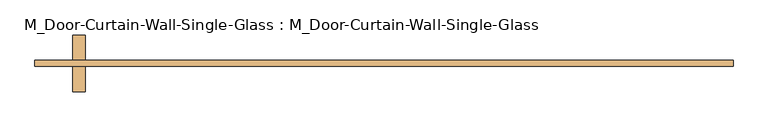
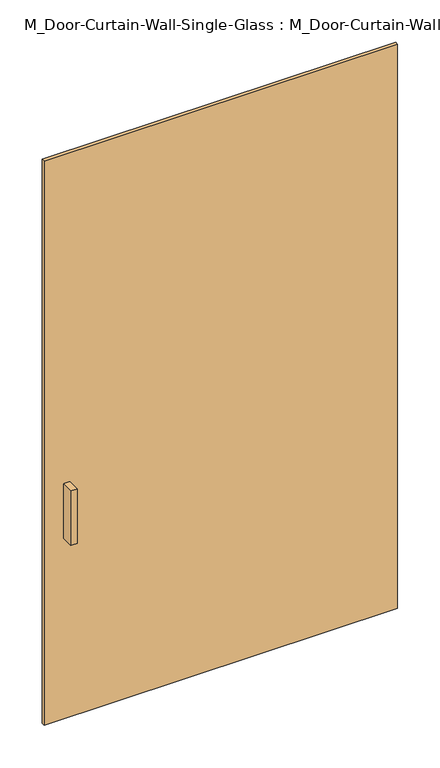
"""IFC4 building model written with IfcOpenShell, lengths in millimetres: door geometry, M_Door-Curtain-Wall-Single-Glass : M_Door-Curtain-Wall-Single-Glass."""

import ifcopenshell
import ifcopenshell.guid

model = None  # the IFC model being written
_history = None  # IfcOwnerHistory: only IFC2X3 demands one
_inside = {}  # id of a spatial element -> (the spatial element, [elements in it])
_under = {}  # id of a project, library or spatial element -> (it, [spatial elements below it])
_declared = {}  # id of a project -> (the project, [libraries it declares])
_typed = {}  # id of a type object -> (the type object, [elements of that type])
_made_of = {}  # id of a material, layer set ... -> (it, [elements and type objects made of it])


def new_model(schema):
    """Start an empty IFC model of exactly this schema.

    Asked for "IFC4X3", IfcOpenShell would pick the latest addendum, in which some entities
    have other attributes; the version numbers below select the first issue.
    IFC2X3 requires an IfcOwnerHistory on every rooted entity: one is made here for all.
    """
    global model, _history
    if schema == "IFC4X3":
        model = ifcopenshell.file(schema_version=(4, 3, 0, 0))
    else:
        model = ifcopenshell.file(schema=schema)
    _inside.clear()
    _under.clear()
    _declared.clear()
    _typed.clear()
    _made_of.clear()
    _history = None
    if model.schema == "IFC2X3":
        org = make("IfcOrganization", Name="unknown")
        user = make(
            "IfcPersonAndOrganization",
            ThePerson=make("IfcPerson", FamilyName="unknown"),
            TheOrganization=org,
        )
        app = make(
            "IfcApplication",
            ApplicationDeveloper=org,
            Version="unknown",
            ApplicationFullName="unknown",
            ApplicationIdentifier="unknown",
        )
        _history = make(
            "IfcOwnerHistory",
            OwningUser=user,
            OwningApplication=app,
            ChangeAction="ADDED",
            CreationDate=0,
        )
    return model


def make(cls, **values):
    """One entity of the class cls with the attributes given. An attribute that is None is left unset."""
    return model.create_entity(
        cls, **{name: value for name, value in values.items() if value is not None}
    )


def rooted(cls, **values):
    """An entity with a GlobalId (a new one), such as an element, a storey or a relation."""
    return make(cls, GlobalId=ifcopenshell.guid.new(), OwnerHistory=_history, **values)


def si_unit(unit_type, name, prefix=None):
    """IfcSIUnit, for example si_unit("LENGTHUNIT", "METRE", prefix="MILLI")."""
    return make("IfcSIUnit", UnitType=unit_type, Prefix=prefix, Name=name)


def assignment(units):
    """IfcUnitAssignment: the units of a project."""
    return None if units is None else make("IfcUnitAssignment", Units=units)


def point(xyz):
    """IfcCartesianPoint."""
    return None if xyz is None else make("IfcCartesianPoint", Coordinates=xyz)


def direction(xyz):
    """IfcDirection."""
    return None if xyz is None else make("IfcDirection", DirectionRatios=xyz)


def frame(location, z_axis=None, x_axis=None):
    """IfcAxis2Placement3D, a coordinate frame: its origin and axes. An axis left out is left unset."""
    return make(
        "IfcAxis2Placement3D",
        Location=point(location),
        Axis=direction(z_axis),
        RefDirection=direction(x_axis),
    )


def origin():
    """The frame at (0, 0, 0) with its axes left unset."""
    return frame((0.0, 0.0, 0.0))


def origin_with_axes():
    """The frame at (0, 0, 0) with the z axis (0, 0, 1) and the x axis (1, 0, 0) written out."""
    return frame((0.0, 0.0, 0.0), z_axis=(0.0, 0.0, 1.0), x_axis=(1.0, 0.0, 0.0))


def place(relative_to, where):
    """IfcLocalPlacement: puts the frame where relative to a parent placement (None: the world)."""
    return make(
        "IfcLocalPlacement", PlacementRelTo=relative_to, RelativePlacement=where
    )


def context(
    kind, dimensions, precision=None, world=None, true_north=None, identifier=None
):
    """IfcGeometricRepresentationContext, for example the 3D "Model" context."""
    return make(
        "IfcGeometricRepresentationContext",
        ContextIdentifier=identifier,
        ContextType=kind,
        CoordinateSpaceDimension=dimensions,
        Precision=precision,
        WorldCoordinateSystem=world,
        TrueNorth=true_north,
    )


def project(units=None, contexts=None):
    """IfcProject with its units and contexts."""
    return rooted(
        "IfcProject",
        Name="project",
        RepresentationContexts=contexts,
        UnitsInContext=assignment(units),
    )


def spatial(cls, under=None, at=None, **own):
    """A site, building, storey or space (cls), placed at a placement, below another one or the project."""
    s = rooted(cls, ObjectPlacement=at, **own)
    if under is not None:
        _under.setdefault(under.id(), (under, []))[1].append(s)
    return s


def polyline(points):
    """IfcPolyline through the points."""
    return make("IfcPolyline", Points=[point(p) for p in points])


def outline(outer, holes=None, kind="AREA"):
    """IfcArbitraryClosedProfileDef: a profile drawn as a closed curve; with holes, ...WithVoids."""
    if holes is None:
        return make("IfcArbitraryClosedProfileDef", ProfileType=kind, OuterCurve=outer)
    return make(
        "IfcArbitraryProfileDefWithVoids",
        ProfileType=kind,
        OuterCurve=outer,
        InnerCurves=holes,
    )


def extrude(swept, where, along, depth):
    """IfcExtrudedAreaSolid: the profile swept, set in the frame where, extruded along a direction by depth."""
    return make(
        "IfcExtrudedAreaSolid",
        SweptArea=swept,
        Position=where,
        ExtrudedDirection=direction(along),
        Depth=depth,
    )


def shape(context_of_items, identifier, shape_type, items):
    """IfcShapeRepresentation: the items that make up one representation, for example the "Body"."""
    return make(
        "IfcShapeRepresentation",
        ContextOfItems=context_of_items,
        RepresentationIdentifier=identifier,
        RepresentationType=shape_type,
        Items=items,
    )


def source(mapping_origin, context_of_items, identifier, shape_type, items):
    """IfcRepresentationMap: a shape defined once, which mapped items show again and again."""
    return make(
        "IfcRepresentationMap",
        MappingOrigin=mapping_origin,
        MappedRepresentation=shape(context_of_items, identifier, shape_type, items),
    )


def transform(
    local_origin,
    x_axis=None,
    y_axis=None,
    z_axis=None,
    scale=None,
    scale2=None,
    scale3=None,
    uniform=True,
):
    """IfcCartesianTransformationOperator3D, or its non-uniform kind. x_axis, y_axis, z_axis: its Axis1, 2, 3."""
    if uniform:
        return make(
            "IfcCartesianTransformationOperator3D",
            Axis1=direction(x_axis),
            Axis2=direction(y_axis),
            LocalOrigin=point(local_origin),
            Scale=scale,
            Axis3=direction(z_axis),
        )
    return make(
        "IfcCartesianTransformationOperator3DnonUniform",
        Axis1=direction(x_axis),
        Axis2=direction(y_axis),
        LocalOrigin=point(local_origin),
        Scale=scale,
        Axis3=direction(z_axis),
        Scale2=scale2,
        Scale3=scale3,
    )


def mapped(mapping_source, mapping_target):
    """IfcMappedItem: shows the shape of a source again, moved by a transform."""
    return make(
        "IfcMappedItem", MappingSource=mapping_source, MappingTarget=mapping_target
    )


def made_of(thing, what):
    """Note that an element or type object is made of a material, layer set ...; save() writes the relation."""
    if what is not None:
        _made_of.setdefault(what.id(), (what, []))[1].append(thing)
    return thing


def element(
    cls,
    number,
    at=None,
    inside=None,
    cuts=None,
    type_object=None,
    material=None,
    context=None,
    identifier="Body",
    shape_type=None,
    held_by="IfcProductDefinitionShape",
    body=None,
    shapes=None,
    **own,
):
    """One element of the class cls, such as IfcWall. Its Tag is "e" and its number.

    at: its placement. inside: the storey or other place that contains it. cuts: it is an
    opening in that element (IfcRelVoidsElement). A single representation is given by context,
    identifier, shape_type and body (its items); several are given by shapes. held_by: the class
    of the entity that holds the representations. save() writes the other relations.
    """
    e = rooted(cls, Tag="e%d" % number, ObjectPlacement=at, **own)
    if body is not None:
        shapes = [shape(context, identifier, shape_type, body)]
    if shapes is not None:
        e.Representation = make(held_by, Representations=shapes)
    if inside is not None:
        _inside.setdefault(inside.id(), (inside, []))[1].append(e)
    if cuts is not None:
        rooted(
            "IfcRelVoidsElement", RelatingBuildingElement=cuts, RelatedOpeningElement=e
        )
    if type_object is not None:
        _typed.setdefault(type_object.id(), (type_object, []))[1].append(e)
    return made_of(e, material)


def aggregate(whole, parts):
    """IfcRelAggregates: a whole, such as a stair, and the parts it consists of."""
    return rooted("IfcRelAggregates", RelatingObject=whole, RelatedObjects=parts)


def save(model, path):
    """Write the relations noted so far, then the file.

    IfcRelAggregates (storeys below a building ...), IfcRelContainedInSpatialStructure (elements
    in a storey), IfcRelDefinesByType, IfcRelAssociatesMaterial and IfcRelDeclares: one each for
    every whole, place, type object, material and project.
    """
    for whole, parts in _under.values():
        aggregate(whole, parts)
    for where, things in _inside.values():
        rooted(
            "IfcRelContainedInSpatialStructure",
            RelatedElements=things,
            RelatingStructure=where,
        )
    for kind, things in _typed.values():
        rooted("IfcRelDefinesByType", RelatedObjects=things, RelatingType=kind)
    for what, things in _made_of.values():
        rooted("IfcRelAssociatesMaterial", RelatedObjects=things, RelatingMaterial=what)
    for by, libraries in _declared.values():
        rooted("IfcRelDeclares", RelatingContext=by, RelatedDefinitions=libraries)
    model.write(path)


def m_door_curtain_wall_single_glass_m_door_curtain_wall_single_256292e2(model_context):
    return source(origin(), model_context, "Body", "SweptSolid", [
        extrude(outline(polyline([(704.0732534, 50.8), (704.0732534, 38.1), (-704.0732534, 38.1), (-704.0732534, 50.8), (704.0732534, 50.8)])), origin_with_axes(), (0.0, 0.0, 1.0), 2375.0),
        extrude(outline(polyline([(-602.4732534, -12.7), (-627.8732534, -12.7), (-627.8732534, 38.1), (-602.4732534, 38.1), (-602.4732534, -12.7)])), frame((0.0, 0.0, 762.0), z_axis=(0.0, 0.0, 1.0), x_axis=(1.0, 0.0, 0.0)), (0.0, 0.0, 1.0), 228.6),
        extrude(outline(polyline([(-627.8732534, 101.6), (-602.4732534, 101.6), (-602.4732534, 50.8), (-627.8732534, 50.8), (-627.8732534, 101.6)])), frame((0.0, 0.0, 762.0), z_axis=(0.0, 0.0, 1.0), x_axis=(1.0, 0.0, 0.0)), (0.0, 0.0, 1.0), 228.6),
    ])


if __name__ == "__main__":
    model = new_model("IFC4")
    model_context = context("Model", 3, world=origin())
    ifc_project = project(units=[si_unit("LENGTHUNIT", "METRE", prefix="MILLI")], contexts=[model_context])
    site = spatial("IfcSite", under=ifc_project)
    building = spatial("IfcBuilding", under=site)
    placement = place(None, origin())
    m_door_curtain_wall_single_glass_m_door_curtain_wall_single_shape = m_door_curtain_wall_single_glass_m_door_curtain_wall_single_256292e2(model_context)
    element("IfcDoor", 1, ObjectType="M_Door-Curtain-Wall-Single-Glass : M_Door-Curtain-Wall-Single-Glass", at=placement, inside=building, context=model_context, shape_type="MappedRepresentation", body=[
        mapped(m_door_curtain_wall_single_glass_m_door_curtain_wall_single_shape, transform((0.0, 0.0, 0.0), x_axis=(1.0, 0.0, 0.0), y_axis=(0.0, 1.0, 0.0), z_axis=(0.0, 0.0, 1.0))),
    ])
    save(model, "model.ifc")
